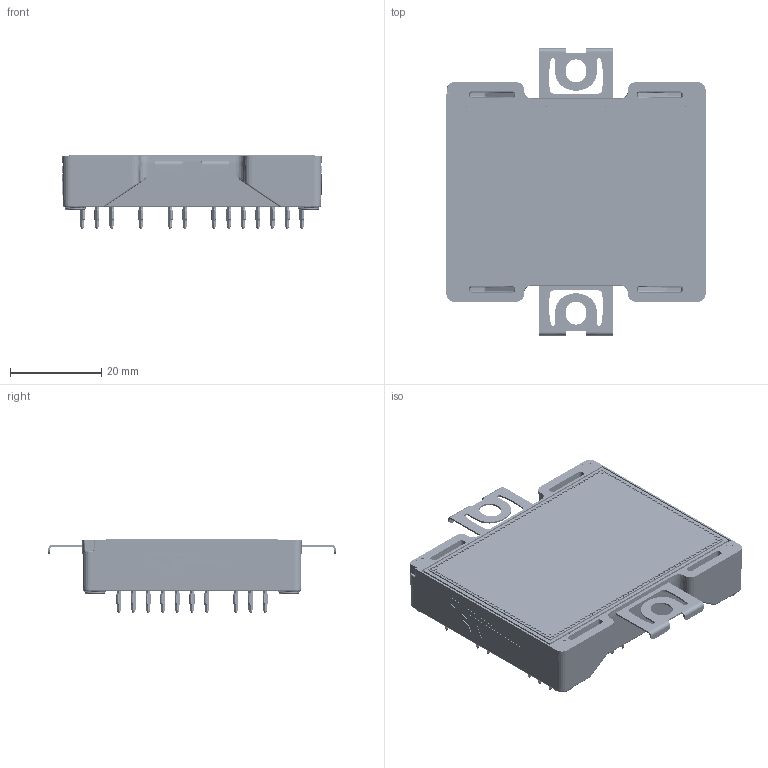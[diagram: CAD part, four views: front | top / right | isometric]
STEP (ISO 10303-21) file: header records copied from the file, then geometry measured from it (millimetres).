
FILE_DESCRIPTION (( 'STEP AP214' ), '1' );
FILE_NAME ('Wolfspeed_CAB00xM12GM3_Power_Module_External.STEP', '2022-01-17T21:43:53', ( '' ), ( '' ), 'SwSTEP 2.0', 'SolidWorks 2018', '' );
FILE_SCHEMA (( 'AUTOMOTIVE_DESIGN' ));
Length unit declared in the file: millimetre
Products named in the file (1): Wolfspeed_CAB00xM12GM3_Power_Module_External
Bounding box: 56.7 x 62.8 x 16.4 mm (x, y, z)
Volume: 25878.1 mm3; surface area: 12525.9 mm2
Topology: 1 solids, 1 shells, 4840 faces, 10944 edges, 6801 vertices
Faces by surface type: cylinder 1480, plane 1296, cone 1050, torus 707, bspline 289, sphere 18
Entity records: 196982 total; most frequent: CARTESIAN_POINT 36203, DIRECTION 23274, ORIENTED_EDGE 21888, EDGE_CURVE 10944, AXIS2_PLACEMENT_3D 9565, VERTEX_POINT 6801, EDGE_LOOP 5543, CIRCLE 5013
